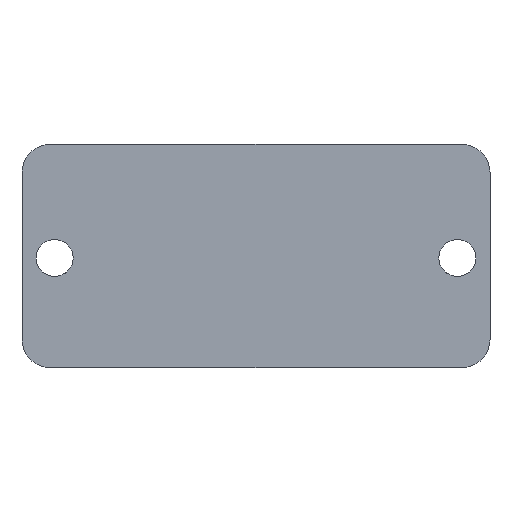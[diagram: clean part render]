
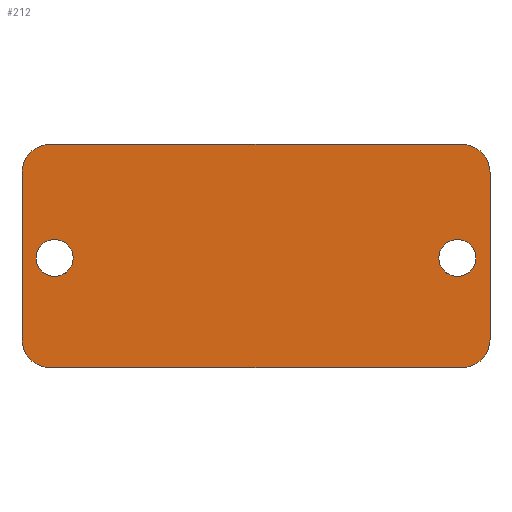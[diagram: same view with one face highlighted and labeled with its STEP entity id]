
A CAD part, front view. The second image highlights one B-rep face of the part: STEP entity #212.
In plain terms, the highlighted planar face has unit normal (0, -1, 0).
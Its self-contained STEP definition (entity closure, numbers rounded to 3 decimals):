
#77=PLANE('',#603);
#105=LINE('',#808,#161);
#113=LINE('',#830,#169);
#114=LINE('',#834,#170);
#115=LINE('',#838,#171);
#161=VECTOR('',#657,1.);
#169=VECTOR('',#677,1.);
#170=VECTOR('',#680,1.);
#171=VECTOR('',#683,1.);
#212=ADVANCED_FACE('',(#251,#252,#253),#77,.F.);
#251=FACE_BOUND('',#266,.T.);
#252=FACE_BOUND('',#267,.T.);
#253=FACE_BOUND('',#268,.T.);
#266=EDGE_LOOP('',(#325,#326,#327,#328,#329,#330,#331,#332));
#267=EDGE_LOOP('',(#333));
#268=EDGE_LOOP('',(#334));
#325=ORIENTED_EDGE('',*,*,#513,.F.);
#326=ORIENTED_EDGE('',*,*,#523,.T.);
#327=ORIENTED_EDGE('',*,*,#524,.F.);
#328=ORIENTED_EDGE('',*,*,#525,.T.);
#329=ORIENTED_EDGE('',*,*,#526,.F.);
#330=ORIENTED_EDGE('',*,*,#527,.T.);
#331=ORIENTED_EDGE('',*,*,#528,.F.);
#332=ORIENTED_EDGE('',*,*,#529,.T.);
#333=ORIENTED_EDGE('',*,*,#501,.T.);
#334=ORIENTED_EDGE('',*,*,#499,.F.);
#447=VERTEX_POINT('',#778);
#449=VERTEX_POINT('',#783);
#460=VERTEX_POINT('',#807);
#461=VERTEX_POINT('',#809);
#468=VERTEX_POINT('',#829);
#469=VERTEX_POINT('',#831);
#470=VERTEX_POINT('',#833);
#471=VERTEX_POINT('',#835);
#472=VERTEX_POINT('',#837);
#473=VERTEX_POINT('',#839);
#499=EDGE_CURVE('',#447,#447,#575,.T.);
#501=EDGE_CURVE('',#449,#449,#577,.T.);
#513=EDGE_CURVE('',#460,#461,#105,.T.);
#523=EDGE_CURVE('',#460,#468,#580,.T.);
#524=EDGE_CURVE('',#469,#468,#113,.T.);
#525=EDGE_CURVE('',#469,#470,#581,.T.);
#526=EDGE_CURVE('',#471,#470,#114,.T.);
#527=EDGE_CURVE('',#471,#472,#582,.T.);
#528=EDGE_CURVE('',#473,#472,#115,.T.);
#529=EDGE_CURVE('',#473,#461,#583,.T.);
#575=CIRCLE('',#588,1.7);
#577=CIRCLE('',#591,1.7);
#580=CIRCLE('',#599,2.57);
#581=CIRCLE('',#600,2.57);
#582=CIRCLE('',#601,2.57);
#583=CIRCLE('',#602,2.57);
#588=AXIS2_PLACEMENT_3D('',#777,#634,#635);
#591=AXIS2_PLACEMENT_3D('',#782,#640,#641);
#599=AXIS2_PLACEMENT_3D('',#828,#675,#676);
#600=AXIS2_PLACEMENT_3D('',#832,#678,#679);
#601=AXIS2_PLACEMENT_3D('',#836,#681,#682);
#602=AXIS2_PLACEMENT_3D('',#840,#684,#685);
#603=AXIS2_PLACEMENT_3D('',#841,#686,#687);
#634=DIRECTION('',(0.,-1.,0.));
#635=DIRECTION('',(0.,0.,1.));
#640=DIRECTION('',(0.,1.,0.));
#641=DIRECTION('',(0.,0.,1.));
#657=DIRECTION('',(-1.,0.,0.));
#675=DIRECTION('',(0.,-1.,0.));
#676=DIRECTION('',(0.,0.,1.));
#677=DIRECTION('',(0.,0.,-1.));
#678=DIRECTION('',(0.,-1.,0.));
#679=DIRECTION('',(0.,0.,1.));
#680=DIRECTION('',(1.,0.,0.));
#681=DIRECTION('',(0.,-1.,0.));
#682=DIRECTION('',(0.,0.,1.));
#683=DIRECTION('',(0.,0.,1.));
#684=DIRECTION('',(0.,-1.,0.));
#685=DIRECTION('',(0.,0.,1.));
#686=DIRECTION('',(0.,1.,0.));
#687=DIRECTION('',(0.,0.,-1.));
#777=CARTESIAN_POINT('',(18.5,0.,-0.18));
#778=CARTESIAN_POINT('',(18.5,0.,1.52));
#782=CARTESIAN_POINT('',(-18.5,0.,-0.18));
#783=CARTESIAN_POINT('',(-18.5,0.,1.52));
#807=CARTESIAN_POINT('',(18.93,0.,-10.25));
#808=CARTESIAN_POINT('',(0.,0.,-10.25));
#809=CARTESIAN_POINT('',(-18.93,0.,-10.25));
#828=CARTESIAN_POINT('',(18.93,0.,-7.68));
#829=CARTESIAN_POINT('',(21.5,0.,-7.68));
#830=CARTESIAN_POINT('',(21.5,0.,0.));
#831=CARTESIAN_POINT('',(21.5,0.,7.68));
#832=CARTESIAN_POINT('',(18.93,0.,7.68));
#833=CARTESIAN_POINT('',(18.93,0.,10.25));
#834=CARTESIAN_POINT('',(0.,0.,10.25));
#835=CARTESIAN_POINT('',(-18.93,0.,10.25));
#836=CARTESIAN_POINT('',(-18.93,0.,7.68));
#837=CARTESIAN_POINT('',(-21.5,0.,7.68));
#838=CARTESIAN_POINT('',(-21.5,0.,0.));
#839=CARTESIAN_POINT('',(-21.5,0.,-7.68));
#840=CARTESIAN_POINT('',(-18.93,0.,-7.68));
#841=CARTESIAN_POINT('',(0.,0.,0.));
